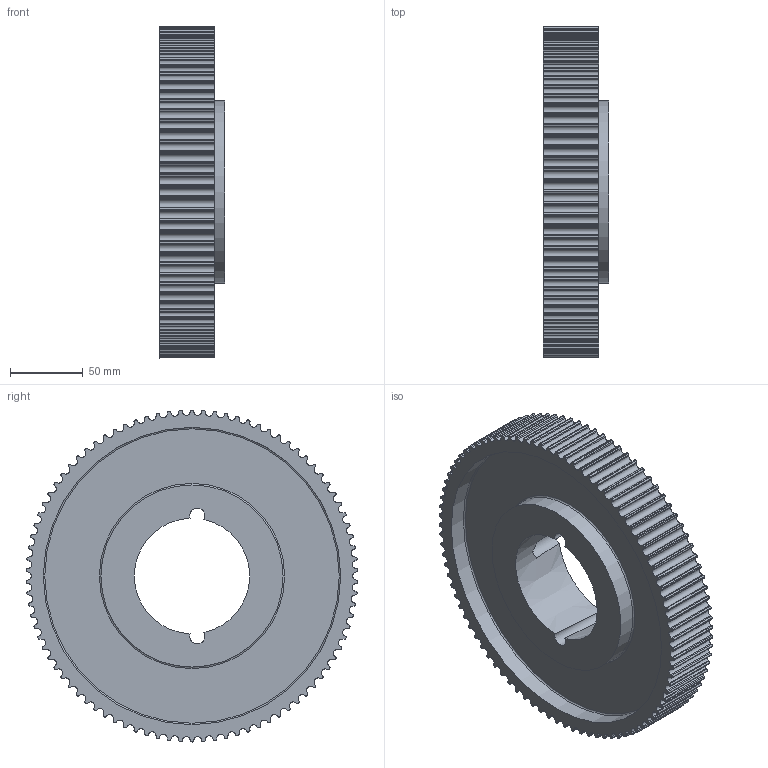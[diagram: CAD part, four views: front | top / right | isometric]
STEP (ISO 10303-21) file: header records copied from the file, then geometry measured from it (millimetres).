
FILE_DESCRIPTION( ( 'STEP AP203' ), '1' );
FILE_NAME( 'C:/Users/Stangenbergd/Documents/CAD_Step/1/17477245.stp', '2020-09-13T17:58:16', ( 'License CC BY-ND 4.0' ), ( 'CADENAS' ), ' ', 'PARTsolutions', ' ' );
FILE_SCHEMA( ( 'CONFIG_CONTROL_DESIGN' ) );
Length unit declared in the file: millimetre
Products named in the file (1): _17477245
Bounding box: 45 x 227.68 x 227.81 mm (x, y, z)
Volume: 815067.6 mm3; surface area: 148533.1 mm2
Topology: 1 solids, 1 shells, 560 faces, 1661 edges, 1106 vertices
Faces by surface type: cylinder 367, plane 186, torus 4, cone 3
Full cylindrical faces by diameter (mm): 125 x2, 204 x2
Entity records: 19100 total; most frequent: DIRECTION 3508, CARTESIAN_POINT 3365, ORIENTED_EDGE 3300, EDGE_CURVE 1650, AXIS2_PLACEMENT_3D 1304, VERTEX_POINT 1105, LINE 900, VECTOR 900
